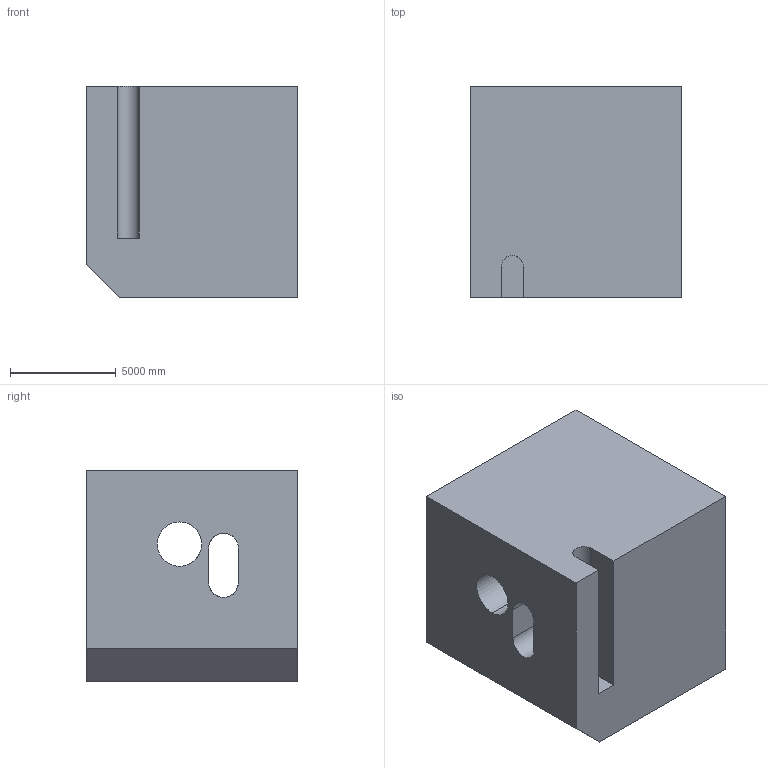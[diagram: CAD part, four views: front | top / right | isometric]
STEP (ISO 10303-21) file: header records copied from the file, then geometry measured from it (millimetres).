
FILE_DESCRIPTION (( 'STEP AP203' ), '1' );
FILE_NAME ('1867.STEP', '2022-08-19T13:42:58', ( 'user' ), ( '' ), 'SwSTEP 2.0', 'SolidWorks 2021', '' );
FILE_SCHEMA (( 'CONFIG_CONTROL_DESIGN' ));
Length unit declared in the file: centimetre
Products named in the file (1): 1867
Bounding box: 10000 x 10000 x 10000 mm (x, y, z)
Volume: 830549291803 mm3; surface area: 822829908.1 mm2
Topology: 1 solids, 1 shells, 53 faces, 155 edges, 103 vertices
Faces by surface type: plane 31, cylinder 22
Entity records: 3039 total; most frequent: CARTESIAN_POINT 1574, ORIENTED_EDGE 310, DIRECTION 264, EDGE_CURVE 155, VERTEX_POINT 103, VECTOR 96, LINE 96, AXIS2_PLACEMENT_3D 84
